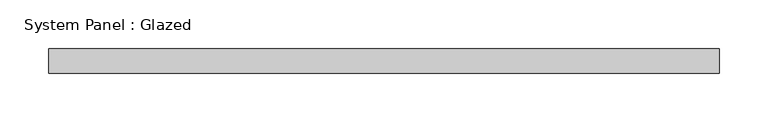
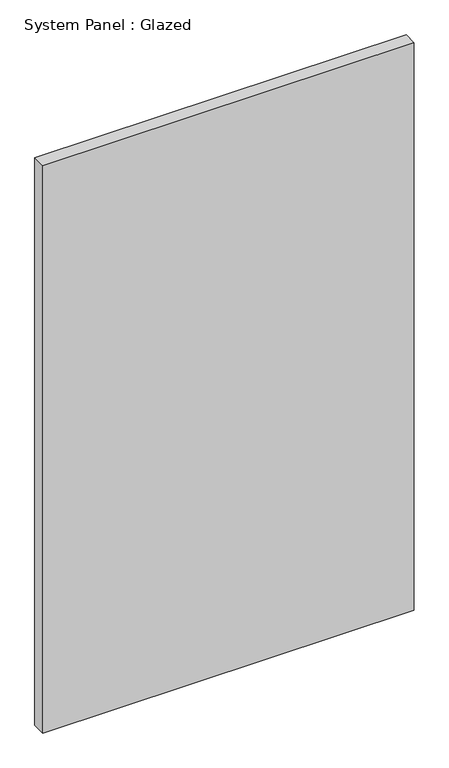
"""IFC4 building model written with IfcOpenShell, lengths in millimetres: plate geometry, System Panel : Glazed."""

from ifc_helpers import new_model, si_unit, origin, origin_with_axes, place, context, project, spatial, polyline, outline, extrude, source, transform, mapped, element, save


def system_panel_glazed_e7f8989c(model_context):
    return source(origin(), model_context, "Body", "SweptSolid", [
        extrude(outline(polyline([(344.5, 24.5), (-344.5, 24.5), (-344.5, 49.5), (344.5, 49.5), (344.5, 24.5)])), origin_with_axes(), (0.0, 0.0, 1.0), 1112.0),
    ])


if __name__ == "__main__":
    model = new_model("IFC4")
    model_context = context("Model", 3, world=origin())
    ifc_project = project(units=[si_unit("LENGTHUNIT", "METRE", prefix="MILLI")], contexts=[model_context])
    site = spatial("IfcSite", under=ifc_project)
    building = spatial("IfcBuilding", under=site)
    placement = place(None, origin())
    system_panel_glazed_shape = system_panel_glazed_e7f8989c(model_context)
    element("IfcPlate", 1, ObjectType="System Panel : Glazed", at=placement, inside=building, context=model_context, shape_type="MappedRepresentation", body=[
        mapped(system_panel_glazed_shape, transform((0.0, 0.0, 0.0), x_axis=(1.0, 0.0, 0.0), y_axis=(0.0, 1.0, 0.0), z_axis=(0.0, 0.0, 1.0))),
    ])
    save(model, "model.ifc")
